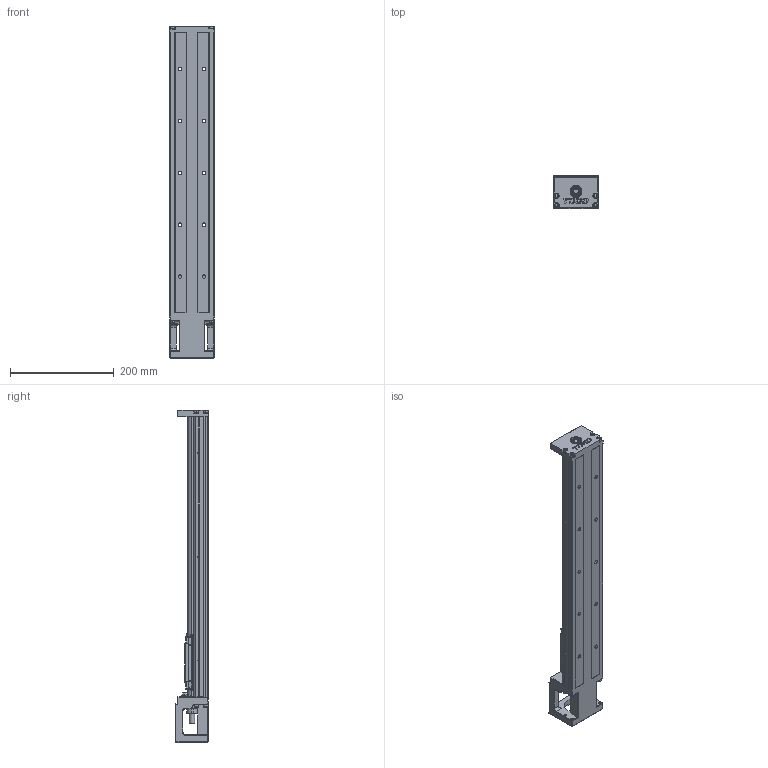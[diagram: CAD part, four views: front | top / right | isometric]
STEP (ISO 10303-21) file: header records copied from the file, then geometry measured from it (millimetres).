
FILE_DESCRIPTION (( 'STEP AP214' ), '1' );
FILE_NAME ('7.0123 KT8620C-540A1-F0.STEP', '2026-03-17T12:20:09', ( '' ), ( '' ), 'SwSTEP 2.0', 'SolidWorks 2025', '' );
FILE_SCHEMA (( 'AUTOMOTIVE_DESIGN' ));
Length unit declared in the file: millimetre
Products named in the file (1): 7.0123 KT8620C-540A1-F0
Bounding box: 86 x 64 x 640.2 mm (x, y, z)
Volume: 1242271.1 mm3; surface area: 289546.3 mm2
Topology: 18 solids, 18 shells, 1308 faces, 3411 edges, 2133 vertices
Faces by surface type: plane 623, cylinder 441, cone 152, torus 51, sphere 24, bspline 17
Entity records: 54675 total; most frequent: CARTESIAN_POINT 9203, DIRECTION 6824, ORIENTED_EDGE 6658, EDGE_CURVE 3329, AXIS2_PLACEMENT_3D 2395, VERTEX_POINT 2133, VECTOR 2034, LINE 2034
